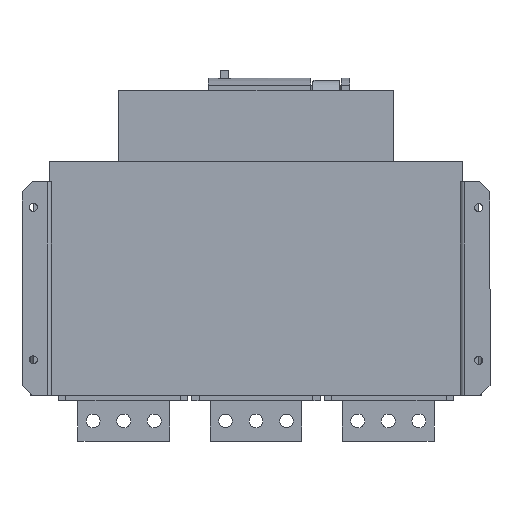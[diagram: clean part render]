
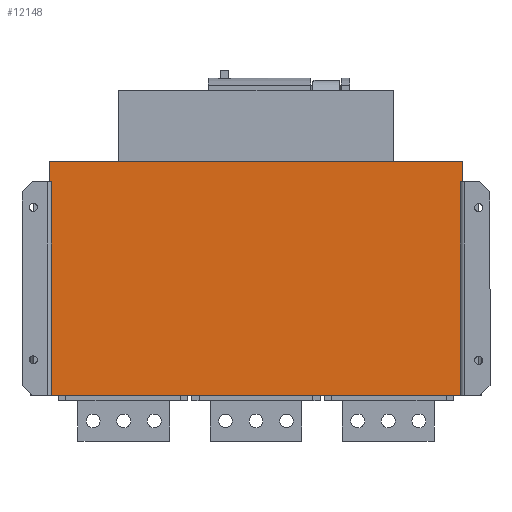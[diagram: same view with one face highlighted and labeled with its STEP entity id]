
A CAD part, front view. The second image highlights one B-rep face of the part: STEP entity #12148.
In plain terms, the highlighted planar face has unit normal (0, -1, 0).
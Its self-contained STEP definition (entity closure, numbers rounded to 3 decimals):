
#3699 = CARTESIAN_POINT ( 'NONE',  ( -195.695, 90.863, -133.5 ) ) ;
#3831 = DIRECTION ( 'NONE',  ( 1., 0., 0. ) ) ;
#3832 = VECTOR ( 'NONE', #3831, 1000. ) ;
#3833 = CARTESIAN_POINT ( 'NONE',  ( -198.695, 90.863, -133.5 ) ) ;
#3834 = LINE ( 'NONE', #3833, #3832 ) ;
#3835 = CARTESIAN_POINT ( 'NONE',  ( 206.305, 90.863, -133.5 ) ) ;
#12132 = ORIENTED_EDGE ( 'NONE', *, *, #12133, .F. ) ;
#12133 = EDGE_CURVE ( 'NONE', #12134, #12159, #26740, .T. ) ;
#12134 = VERTEX_POINT ( 'NONE', #26736 ) ;
#12135 = ORIENTED_EDGE ( 'NONE', *, *, #12136, .F. ) ;
#12136 = EDGE_CURVE ( 'NONE', #12137, #12134, #26735, .T. ) ;
#12137 = VERTEX_POINT ( 'NONE', #26731 ) ;
#12138 = ORIENTED_EDGE ( 'NONE', *, *, #12139, .F. ) ;
#12139 = EDGE_CURVE ( 'NONE', #23001, #12137, #26730, .T. ) ;
#12140 = ORIENTED_EDGE ( 'NONE', *, *, #23093, .T. ) ;
#12141 = ORIENTED_EDGE ( 'NONE', *, *, #12142, .T. ) ;
#12142 = EDGE_CURVE ( 'NONE', #23091, #12152, #26726, .T. ) ;
#12148 = ADVANCED_FACE ( 'NONE', ( #26807 ), #26792, .F. ) ;
#12149 = EDGE_LOOP ( 'NONE', ( #12150, #12154, #12157, #12132, #12135, #12138, #12140, #12141 ) ) ;
#12150 = ORIENTED_EDGE ( 'NONE', *, *, #12151, .T. ) ;
#12151 = EDGE_CURVE ( 'NONE', #12152, #12153, #26787, .T. ) ;
#12152 = VERTEX_POINT ( 'NONE', #26783 ) ;
#12153 = VERTEX_POINT ( 'NONE', #26782 ) ;
#12154 = ORIENTED_EDGE ( 'NONE', *, *, #12155, .T. ) ;
#12155 = EDGE_CURVE ( 'NONE', #12153, #12156, #26839, .T. ) ;
#12156 = VERTEX_POINT ( 'NONE', #26835 ) ;
#12157 = ORIENTED_EDGE ( 'NONE', *, *, #12158, .F. ) ;
#12158 = EDGE_CURVE ( 'NONE', #12159, #12156, #26834, .T. ) ;
#12159 = VERTEX_POINT ( 'NONE', #26830 ) ;
#23001 = VERTEX_POINT ( 'NONE', #3699 ) ;
#23091 = VERTEX_POINT ( 'NONE', #3835 ) ;
#23093 = EDGE_CURVE ( 'NONE', #23001, #23091, #3834, .T. ) ;
#26726 = LINE ( 'NONE', #26780, #26779 ) ;
#26727 = DIRECTION ( 'NONE',  ( 0., 0., 1. ) ) ;
#26728 = VECTOR ( 'NONE', #26727, 1000. ) ;
#26729 = CARTESIAN_POINT ( 'NONE',  ( -195.695, 90.863, -133.5 ) ) ;
#26730 = LINE ( 'NONE', #26729, #26728 ) ;
#26731 = CARTESIAN_POINT ( 'NONE',  ( -195.695, 90.863, 76.5 ) ) ;
#26732 = DIRECTION ( 'NONE',  ( -1., 0., 0. ) ) ;
#26733 = VECTOR ( 'NONE', #26732, 1000. ) ;
#26734 = CARTESIAN_POINT ( 'NONE',  ( -195.695, 90.863, 76.5 ) ) ;
#26735 = LINE ( 'NONE', #26734, #26733 ) ;
#26736 = CARTESIAN_POINT ( 'NONE',  ( -197.695, 90.863, 76.5 ) ) ;
#26737 = DIRECTION ( 'NONE',  ( 0., 0., 1. ) ) ;
#26738 = VECTOR ( 'NONE', #26737, 1000. ) ;
#26739 = CARTESIAN_POINT ( 'NONE',  ( -197.695, 90.863, 96.5 ) ) ;
#26740 = LINE ( 'NONE', #26739, #26738 ) ;
#26778 = DIRECTION ( 'NONE',  ( 0., 0., 1. ) ) ;
#26779 = VECTOR ( 'NONE', #26778, 1000. ) ;
#26780 = CARTESIAN_POINT ( 'NONE',  ( 206.305, 90.863, -133.5 ) ) ;
#26782 = CARTESIAN_POINT ( 'NONE',  ( 208.305, 90.863, 76.5 ) ) ;
#26783 = CARTESIAN_POINT ( 'NONE',  ( 206.305, 90.863, 76.5 ) ) ;
#26784 = DIRECTION ( 'NONE',  ( 1., 0., 0. ) ) ;
#26785 = VECTOR ( 'NONE', #26784, 1000. ) ;
#26786 = CARTESIAN_POINT ( 'NONE',  ( 206.305, 90.863, 76.5 ) ) ;
#26787 = LINE ( 'NONE', #26786, #26785 ) ;
#26788 = DIRECTION ( 'NONE',  ( -1., 0., 0. ) ) ;
#26789 = DIRECTION ( 'NONE',  ( 0., 1., 0. ) ) ;
#26790 = CARTESIAN_POINT ( 'NONE',  ( -198.695, 90.863, 96.5 ) ) ;
#26791 = AXIS2_PLACEMENT_3D ( 'NONE', #26790, #26789, #26788 ) ;
#26792 = PLANE ( 'NONE',  #26791 ) ;
#26807 = FACE_OUTER_BOUND ( 'NONE', #12149, .T. ) ;
#26830 = CARTESIAN_POINT ( 'NONE',  ( -197.695, 90.863, 96.5 ) ) ;
#26831 = DIRECTION ( 'NONE',  ( 1., 0., 0. ) ) ;
#26832 = VECTOR ( 'NONE', #26831, 1000. ) ;
#26833 = CARTESIAN_POINT ( 'NONE',  ( -198.695, 90.863, 96.5 ) ) ;
#26834 = LINE ( 'NONE', #26833, #26832 ) ;
#26835 = CARTESIAN_POINT ( 'NONE',  ( 208.305, 90.863, 96.5 ) ) ;
#26836 = DIRECTION ( 'NONE',  ( 0., 0., 1. ) ) ;
#26837 = VECTOR ( 'NONE', #26836, 1000. ) ;
#26838 = CARTESIAN_POINT ( 'NONE',  ( 208.305, 90.863, 96.5 ) ) ;
#26839 = LINE ( 'NONE', #26838, #26837 ) ;
